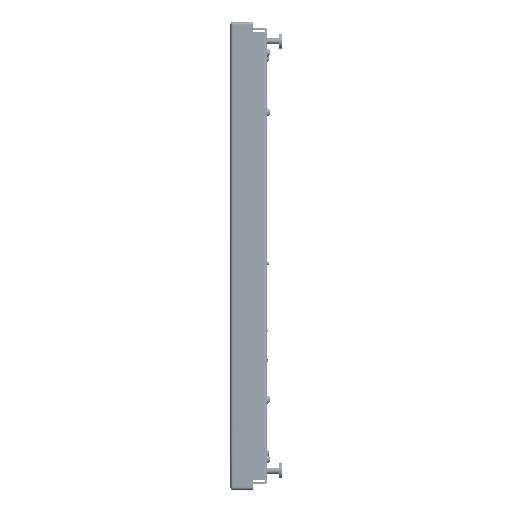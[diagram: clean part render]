
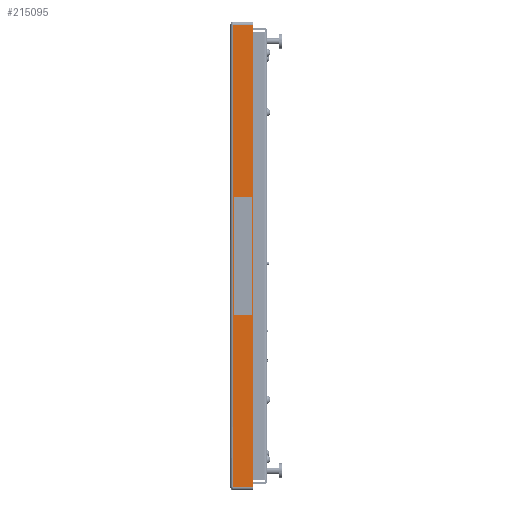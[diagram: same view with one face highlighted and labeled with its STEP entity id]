
A CAD part, left-side view. The second image highlights one B-rep face of the part: STEP entity #215095.
In plain terms, the highlighted planar face has unit normal (-1, 0, 0).
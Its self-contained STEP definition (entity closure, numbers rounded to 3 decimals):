
#1794 = DIRECTION ( 'NONE',  ( 0., 1., 0. ) ) ;
#9657 = EDGE_LOOP ( 'NONE', ( #64293, #62134, #266274, #22351 ) ) ;
#22351 = ORIENTED_EDGE ( 'NONE', *, *, #163547, .F. ) ;
#34463 = DIRECTION ( 'NONE',  ( 0., 1., 0. ) ) ;
#55382 = VECTOR ( 'NONE', #34463, 1000. ) ;
#61577 = DIRECTION ( 'NONE',  ( 0., 0., -1. ) ) ;
#62134 = ORIENTED_EDGE ( 'NONE', *, *, #231852, .T. ) ;
#63495 = CARTESIAN_POINT ( 'NONE',  ( -300., 26.437, 0. ) ) ;
#64293 = ORIENTED_EDGE ( 'NONE', *, *, #175711, .F. ) ;
#69659 = PLANE ( 'NONE',  #253589 ) ;
#82814 = CARTESIAN_POINT ( 'NONE',  ( -300., 26.437, -296.27 ) ) ;
#89289 = LINE ( 'NONE', #134903, #283698 ) ;
#134903 = CARTESIAN_POINT ( 'NONE',  ( -300., 0., 296.27 ) ) ;
#136696 = CARTESIAN_POINT ( 'NONE',  ( -300., 0., 0. ) ) ;
#138869 = LINE ( 'NONE', #63495, #284768 ) ;
#140250 = VERTEX_POINT ( 'NONE', #275830 ) ;
#144933 = CARTESIAN_POINT ( 'NONE',  ( -300., 0.813, 296.27 ) ) ;
#150766 = VECTOR ( 'NONE', #164195, 1000. ) ;
#161112 = VERTEX_POINT ( 'NONE', #144933 ) ;
#163547 = EDGE_CURVE ( 'NONE', #140250, #257449, #228772, .T. ) ;
#164195 = DIRECTION ( 'NONE',  ( 0., 0., -1. ) ) ;
#167542 = EDGE_CURVE ( 'NONE', #288128, #257449, #138869, .T. ) ;
#167595 = CARTESIAN_POINT ( 'NONE',  ( -300., 0., -296.27 ) ) ;
#175711 = EDGE_CURVE ( 'NONE', #161112, #140250, #244370, .T. ) ;
#213760 = FACE_OUTER_BOUND ( 'NONE', #9657, .T. ) ;
#215095 = ADVANCED_FACE ( 'NONE', ( #213760 ), #69659, .F. ) ;
#228772 = LINE ( 'NONE', #167595, #55382 ) ;
#230936 = CARTESIAN_POINT ( 'NONE',  ( -300., 0.813, -300. ) ) ;
#231852 = EDGE_CURVE ( 'NONE', #161112, #288128, #89289, .T. ) ;
#244370 = LINE ( 'NONE', #230936, #150766 ) ;
#247124 = DIRECTION ( 'NONE',  ( 0., 1., 0. ) ) ;
#253589 = AXIS2_PLACEMENT_3D ( 'NONE', #136696, #271438, #247124 ) ;
#257449 = VERTEX_POINT ( 'NONE', #82814 ) ;
#263095 = CARTESIAN_POINT ( 'NONE',  ( -300., 26.437, 296.27 ) ) ;
#266274 = ORIENTED_EDGE ( 'NONE', *, *, #167542, .T. ) ;
#271438 = DIRECTION ( 'NONE',  ( 1., 0., 0. ) ) ;
#275830 = CARTESIAN_POINT ( 'NONE',  ( -300., 0.813, -296.27 ) ) ;
#283698 = VECTOR ( 'NONE', #1794, 1000. ) ;
#284768 = VECTOR ( 'NONE', #61577, 1000. ) ;
#288128 = VERTEX_POINT ( 'NONE', #263095 ) ;
